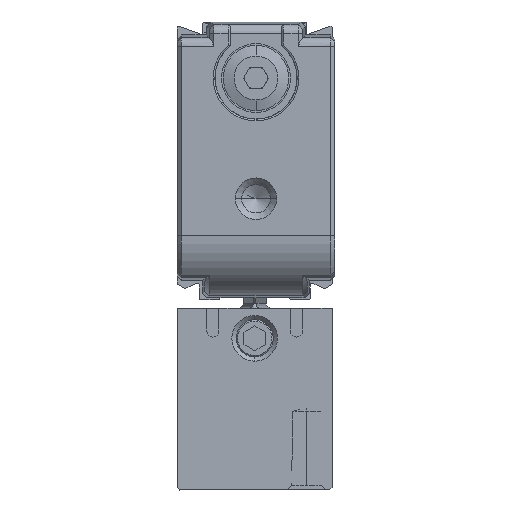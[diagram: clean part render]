
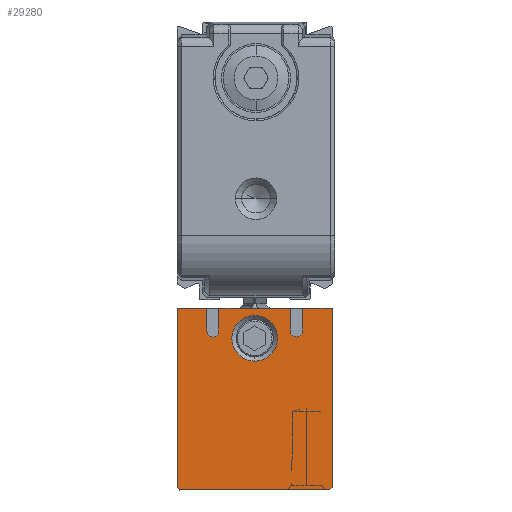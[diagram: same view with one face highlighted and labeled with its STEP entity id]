
A CAD part, left-side view. The second image highlights one B-rep face of the part: STEP entity #29280.
In plain terms, the highlighted planar face has unit normal (-1, 0, 0) as drawn and (0, 0, -1) by its records, which use the part's own axes.
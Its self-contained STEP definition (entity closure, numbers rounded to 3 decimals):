
#8380=CARTESIAN_POINT('',(-14.872,0.,-92.));
#8390=DIRECTION('',(0.,-1.,0.));
#8400=VECTOR('',#8390,1.);
#8410=LINE('',#8380,#8400);
#8420=CARTESIAN_POINT('',(-14.872,-2.3,-92.));
#8430=VERTEX_POINT('',#8420);
#8440=CARTESIAN_POINT('',(-14.872,-19.7,-92.));
#8450=VERTEX_POINT('',#8440);
#8460=EDGE_CURVE('',#8430,#8450,#8410,.T.);
#9060=CARTESIAN_POINT('',(0.,-5.45,-92.));
#9070=DIRECTION('',(-1.,0.,0.));
#9080=VECTOR('',#9070,1.);
#9090=LINE('',#9060,#9080);
#9100=CARTESIAN_POINT('',(6.228,-5.45,-92.));
#9110=VERTEX_POINT('',#9100);
#9120=CARTESIAN_POINT('',(3.568,-5.45,-92.));
#9130=VERTEX_POINT('',#9120);
#9140=EDGE_CURVE('',#9110,#9130,#9090,.T.);
#14560=CARTESIAN_POINT('',(0.078,-11.,-92.));
#14570=VERTEX_POINT('',#14560);
#14600=CARTESIAN_POINT('',(2.728,-11.,-92.));
#14610=DIRECTION('',(0.,0.,-1.));
#14620=DIRECTION('',(-1.,0.,0.));
#14630=AXIS2_PLACEMENT_3D('',#14600,#14610,#14620);
#14640=CIRCLE('',#14630,2.65);
#14650=CARTESIAN_POINT('',(5.378,-11.,-92.));
#14660=VERTEX_POINT('',#14650);
#14670=EDGE_CURVE('',#14660,#14570,#14640,.T.);
#20860=CARTESIAN_POINT('',(6.228,-2.,-92.));
#20870=VERTEX_POINT('',#20860);
#20900=CARTESIAN_POINT('',(6.228,0.,-92.));
#20910=DIRECTION('',(0.,-1.,0.));
#20920=VECTOR('',#20910,1.);
#20930=LINE('',#20900,#20920);
#20940=EDGE_CURVE('',#20870,#9110,#20930,.T.);
#21090=CARTESIAN_POINT('',(6.228,-6.85,-92.));
#21100=VERTEX_POINT('',#21090);
#21130=CARTESIAN_POINT('',(6.228,-15.15,-92.));
#21140=VERTEX_POINT('',#21130);
#21150=EDGE_CURVE('',#21100,#21140,#20930,.T.);
#21370=CARTESIAN_POINT('',(6.228,-16.55,-92.));
#21380=VERTEX_POINT('',#21370);
#21410=CARTESIAN_POINT('',(6.228,-20.,-92.));
#21420=VERTEX_POINT('',#21410);
#21430=EDGE_CURVE('',#21380,#21420,#20930,.T.);
#26500=CARTESIAN_POINT('',(3.568,-6.15,-92.));
#26510=DIRECTION('',(0.,0.,-1.));
#26520=DIRECTION('',(0.,1.,0.));
#26530=AXIS2_PLACEMENT_3D('',#26500,#26510,#26520);
#26540=CIRCLE('',#26530,0.7);
#26550=CARTESIAN_POINT('',(3.568,-6.85,-92.));
#26560=VERTEX_POINT('',#26550);
#26570=EDGE_CURVE('',#26560,#9130,#26540,.T.);
#27000=CARTESIAN_POINT('',(3.568,-15.85,-92.));
#27010=DIRECTION('',(0.,0.,-1.));
#27020=DIRECTION('',(0.,1.,0.));
#27030=AXIS2_PLACEMENT_3D('',#27000,#27010,#27020);
#27040=CIRCLE('',#27030,0.7);
#27050=CARTESIAN_POINT('',(3.568,-16.55,-92.));
#27060=VERTEX_POINT('',#27050);
#27070=CARTESIAN_POINT('',(3.568,-15.15,-92.));
#27080=VERTEX_POINT('',#27070);
#27090=EDGE_CURVE('',#27060,#27080,#27040,.T.);
#28630=CARTESIAN_POINT('',(-14.772,-2.,-92.));
#28640=DIRECTION('',(0.,0.,-1.));
#28650=DIRECTION('',(1.,0.,0.));
#28660=AXIS2_PLACEMENT_3D('',#28630,#28640,#28650);
#28670=PLANE('',#28660);
#28680=EDGE_CURVE('',#14570,#14660,#14640,.T.);
#28690=ORIENTED_EDGE('',*,*,#28680,.F.);
#28700=ORIENTED_EDGE('',*,*,#14670,.F.);
#28710=EDGE_LOOP('',(#28700,#28690));
#28720=FACE_BOUND('',#28710,.T.);
#28730=CARTESIAN_POINT('',(-12.572,0.,-92.));
#28740=DIRECTION('',(-0.707,-0.707,0.));
#28750=VECTOR('',#28740,1.);
#28760=LINE('',#28730,#28750);
#28770=CARTESIAN_POINT('',(-14.572,-2.,-92.));
#28780=VERTEX_POINT('',#28770);
#28790=EDGE_CURVE('',#28780,#8430,#28760,.T.);
#28800=ORIENTED_EDGE('',*,*,#28790,.F.);
#28810=ORIENTED_EDGE('',*,*,#8460,.F.);
#28820=CARTESIAN_POINT('',(-34.572,0.,-92.));
#28830=DIRECTION('',(0.707,-0.707,0.));
#28840=VECTOR('',#28830,1.);
#28850=LINE('',#28820,#28840);
#28860=CARTESIAN_POINT('',(-14.572,-20.,-92.));
#28870=VERTEX_POINT('',#28860);
#28880=EDGE_CURVE('',#8450,#28870,#28850,.T.);
#28890=ORIENTED_EDGE('',*,*,#28880,.F.);
#28900=CARTESIAN_POINT('',(0.,-20.,-92.));
#28910=DIRECTION('',(-1.,0.,0.));
#28920=VECTOR('',#28910,1.);
#28930=LINE('',#28900,#28920);
#28940=EDGE_CURVE('',#21420,#28870,#28930,.T.);
#28950=ORIENTED_EDGE('',*,*,#28940,.T.);
#28960=ORIENTED_EDGE('',*,*,#21430,.T.);
#28970=CARTESIAN_POINT('',(0.,-16.55,-92.));
#28980=DIRECTION('',(1.,0.,0.));
#28990=VECTOR('',#28980,1.);
#29000=LINE('',#28970,#28990);
#29010=EDGE_CURVE('',#27060,#21380,#29000,.T.);
#29020=ORIENTED_EDGE('',*,*,#29010,.T.);
#29030=ORIENTED_EDGE('',*,*,#27090,.F.);
#29040=CARTESIAN_POINT('',(0.,-15.15,-92.));
#29050=DIRECTION('',(-1.,0.,0.));
#29060=VECTOR('',#29050,1.);
#29070=LINE('',#29040,#29060);
#29080=EDGE_CURVE('',#21140,#27080,#29070,.T.);
#29090=ORIENTED_EDGE('',*,*,#29080,.T.);
#29100=ORIENTED_EDGE('',*,*,#21150,.T.);
#29110=CARTESIAN_POINT('',(0.,-6.85,-92.));
#29120=DIRECTION('',(1.,0.,0.));
#29130=VECTOR('',#29120,1.);
#29140=LINE('',#29110,#29130);
#29150=EDGE_CURVE('',#26560,#21100,#29140,.T.);
#29160=ORIENTED_EDGE('',*,*,#29150,.T.);
#29170=ORIENTED_EDGE('',*,*,#26570,.F.);
#29180=ORIENTED_EDGE('',*,*,#9140,.T.);
#29190=ORIENTED_EDGE('',*,*,#20940,.T.);
#29200=CARTESIAN_POINT('',(0.,-2.,-92.));
#29210=DIRECTION('',(1.,0.,0.));
#29220=VECTOR('',#29210,1.);
#29230=LINE('',#29200,#29220);
#29240=EDGE_CURVE('',#28780,#20870,#29230,.T.);
#29250=ORIENTED_EDGE('',*,*,#29240,.T.);
#29260=EDGE_LOOP('',(#29250,#29190,#29180,#29170,#29160,#29100,#29090,
#29030,#29020,#28960,#28950,#28890,#28810,#28800));
#29270=FACE_OUTER_BOUND('',#29260,.T.);
#29280=ADVANCED_FACE('',(#28720,#29270),#28670,.T.);
